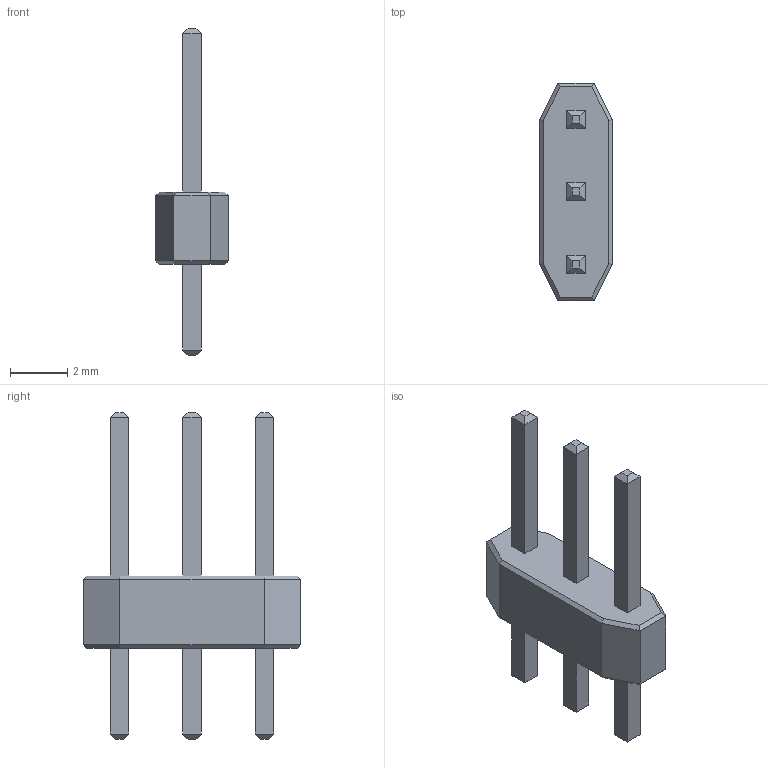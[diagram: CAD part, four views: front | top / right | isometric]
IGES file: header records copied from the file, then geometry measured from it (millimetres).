
Global section: file name: No Iges File Name specified; native system: AutoDesk Inventor R6.0; preprocessor: AutoDesk Inventor Iges Exporter R6.0; author: No Author specified; organization: No Organization specified; date: 20080104.195354; units: inch
Bounding box: 2.54 x 7.62 x 11.43 mm (x, y, z)
Surface area: 145.2 mm2 (no closed solid volume)
Topology: 0 solids, 0 shells, 80 faces, 352 edges, 352 vertices
Faces by surface type: plane 80
